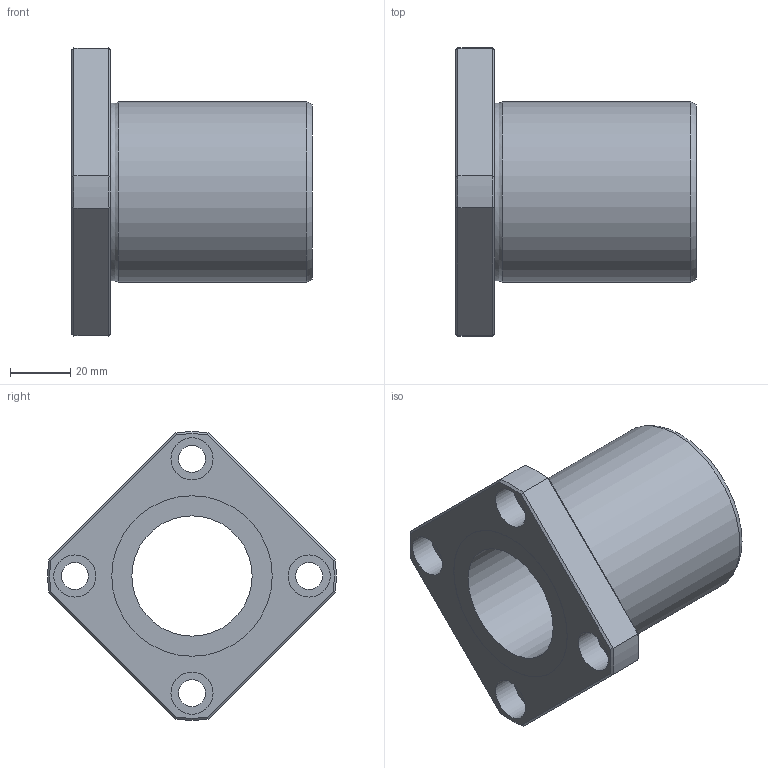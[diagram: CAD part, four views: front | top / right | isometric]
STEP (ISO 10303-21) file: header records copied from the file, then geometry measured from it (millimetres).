
FILE_DESCRIPTION((''),'2;1');
FILE_NAME('D:\製品 (図面)\カタログ用3D\リニアベアリング関連\STEP形式\LFK\LFK40.stp','2010-06-04T08:50:51',('Tsuchiya'),(''),'Autodesk Inventor 10','Autodesk Inventor 10','');
FILE_SCHEMA(('AUTOMOTIVE_DESIGN { 1 0 10303 214 1 1 1 1 }'));
Length unit declared in the file: millimetre
Products named in the file (1): LFK40
Bounding box: 80 x 95.93 x 95.93 mm (x, y, z)
Volume: 153555.4 mm3; surface area: 36100.5 mm2
Topology: 1 solids, 1 shells, 47 faces, 96 edges, 58 vertices
Faces by surface type: plane 21, cylinder 16, cone 8, torus 1, bspline 1
Full cylindrical faces by diameter (mm): 9 x4, 14 x4, 40 x1, 53.4 x2, 60 x1
Entity records: 1275 total; most frequent: CARTESIAN_POINT 298, DIRECTION 202, ORIENTED_EDGE 164, AXIS2_PLACEMENT_3D 89, EDGE_CURVE 82, EDGE_LOOP 78, VERTEX_POINT 58, FACE_OUTER_BOUND 47
